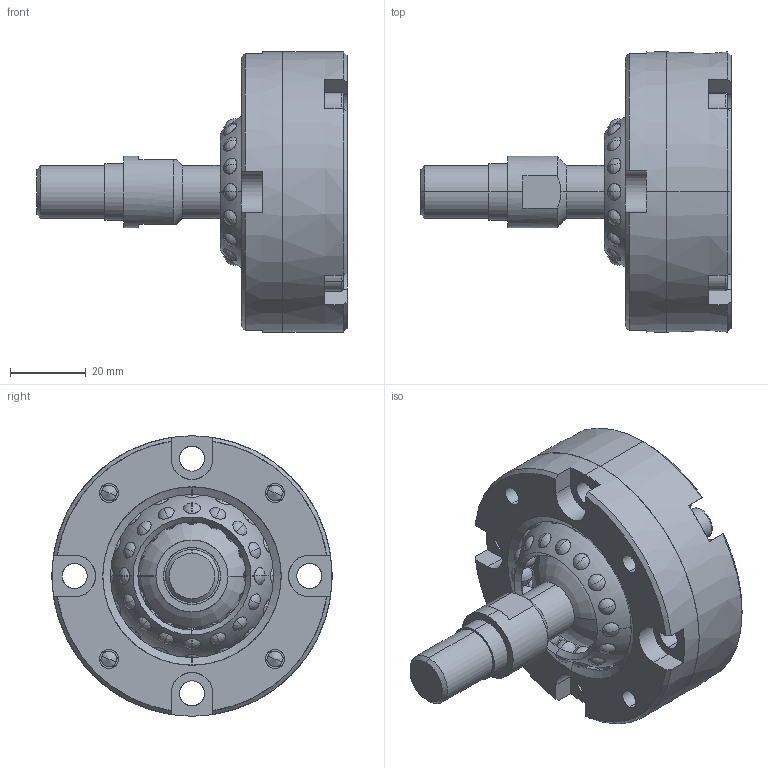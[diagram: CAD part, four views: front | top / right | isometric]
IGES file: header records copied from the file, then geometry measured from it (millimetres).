
Start section: SolidWorks IGES file using analytic representation for surfaces
Global section: file name: C:\Users\render\Documents\CAD Files\SRJ\SRJ024C\SR JOINT - SRJ024C.IGS; native system: SolidWorks 2009; preprocessor: SolidWorks 2009; author: render; date: 100601.154807; units: millimetre
Bounding box: 82 x 74 x 74 mm (x, y, z)
Surface area: 41198.8 mm2 (no closed solid volume)
Topology: 0 solids, 0 shells, 397 faces, 12365 edges, 12204 vertices
Faces by surface type: revolution 308, bspline 89
